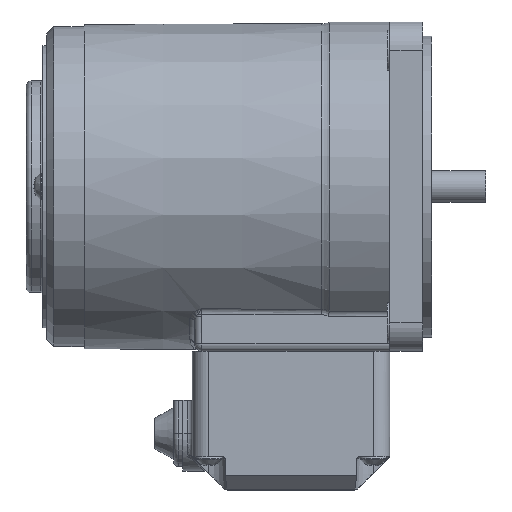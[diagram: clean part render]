
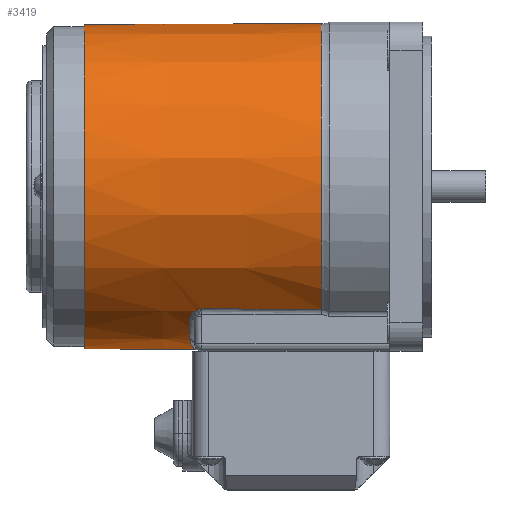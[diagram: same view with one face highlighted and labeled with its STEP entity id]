
A CAD part, top view. The second image highlights one B-rep face of the part: STEP entity #3419.
In plain terms, the highlighted conical face has half-angle 0.227 degrees and reference radius 34.6 mm.
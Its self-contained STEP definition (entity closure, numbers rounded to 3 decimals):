
#2389=CARTESIAN_POINT('',(8.0,34.5,0.0));
#2390=VERTEX_POINT('',#2389);
#2391=CARTESIAN_POINT('',(8.,0.,0.0));
#2392=DIRECTION('',(1.0,0.0,0.0));
#2393=DIRECTION('',(0.0,1.0,0.0));
#2394=AXIS2_PLACEMENT_3D('',#2391,#2392,#2393);
#2395=CIRCLE('',#2394,34.5);
#2396=EDGE_CURVE('',#2390,#2390,#2395,.T.);
#2527=CARTESIAN_POINT('',(58.46,-26.146,-22.814));
#2528=VERTEX_POINT('',#2527);
#2588=CARTESIAN_POINT('',(32.994,-26.014,-22.811));
#2589=VERTEX_POINT('',#2588);
#2597=CARTESIAN_POINT('',(32.994,-26.014,-22.811));
#2598=CARTESIAN_POINT('',(41.483,-26.058,-22.812));
#2599=CARTESIAN_POINT('',(49.971,-26.102,-22.813));
#2600=CARTESIAN_POINT('',(58.46,-26.146,-22.814));
#2601=B_SPLINE_CURVE_WITH_KNOTS('',3,(#2597,#2598,#2599,#2600),.UNSPECIFIED.,.F.,.U.,(4,4),(-4.151,-1.604),.UNSPECIFIED.);
#2602=EDGE_CURVE('',#2589,#2528,#2601,.T.);
#2709=CARTESIAN_POINT('',(58.46,-26.146,22.814));
#2710=VERTEX_POINT('',#2709);
#2720=CARTESIAN_POINT('',(58.46,0.,0.0));
#2721=DIRECTION('',(1.0,0.0,0.0));
#2722=DIRECTION('',(0.0,1.0,0.0));
#2723=AXIS2_PLACEMENT_3D('',#2720,#2721,#2722);
#2724=CIRCLE('',#2723,34.7);
#2725=EDGE_CURVE('',#2528,#2710,#2724,.T.);
#2788=CARTESIAN_POINT('',(32.994,-26.014,22.811));
#2789=VERTEX_POINT('',#2788);
#2813=CARTESIAN_POINT('',(58.46,-26.146,22.814));
#2814=CARTESIAN_POINT('',(49.971,-26.102,22.813));
#2815=CARTESIAN_POINT('',(41.483,-26.058,22.812));
#2816=CARTESIAN_POINT('',(32.994,-26.014,22.811));
#2817=B_SPLINE_CURVE_WITH_KNOTS('',3,(#2813,#2814,#2815,#2816),.UNSPECIFIED.,.F.,.U.,(4,4),(-5.195,-2.649),.UNSPECIFIED.);
#2818=EDGE_CURVE('',#2710,#2789,#2817,.T.);
#3314=CARTESIAN_POINT('',(33.23,0.,0.0));
#3315=DIRECTION('',(1.0,0.,0.0));
#3316=DIRECTION('',(0.0,1.0,0.0));
#3317=AXIS2_PLACEMENT_3D('',#3314,#3315,#3316);
#3318=CONICAL_SURFACE('',#3317,34.6,0.227);
#3319=CARTESIAN_POINT('',(31.869,-26.38,-22.381));
#3320=VERTEX_POINT('',#3319);
#3321=CARTESIAN_POINT('',(31.869,-26.38,-22.381));
#3322=CARTESIAN_POINT('',(32.009,-26.321,-22.45));
#3323=CARTESIAN_POINT('',(32.229,-26.242,-22.544));
#3324=CARTESIAN_POINT('',(32.605,-26.124,-22.683));
#3325=CARTESIAN_POINT('',(32.836,-26.059,-22.759));
#3326=CARTESIAN_POINT('',(32.991,-26.015,-22.81));
#3327=CARTESIAN_POINT('',(32.993,-26.015,-22.811));
#3328=CARTESIAN_POINT('',(32.994,-26.014,-22.811));
#3329=B_SPLINE_CURVE_WITH_KNOTS('',3,(#3321,#3322,#3323,#3324,#3325,#3326,#3327,#3328),.UNSPECIFIED.,.F.,.U.,(4,1,1,2,4),(-0.126,-0.076,-0.051,0.0,0.),.UNSPECIFIED.);
#3330=EDGE_CURVE('',#3320,#2589,#3329,.T.);
#3331=ORIENTED_EDGE('',*,*,#3330,.F.);
#3332=CARTESIAN_POINT('',(31.101,-26.865,-21.791));
#3333=VERTEX_POINT('',#3332);
#3334=CARTESIAN_POINT('',(31.101,-26.865,-21.791));
#3335=CARTESIAN_POINT('',(31.303,-26.678,-22.022));
#3336=CARTESIAN_POINT('',(31.564,-26.506,-22.23));
#3337=CARTESIAN_POINT('',(31.869,-26.38,-22.381));
#3338=B_SPLINE_CURVE_WITH_KNOTS('',3,(#3334,#3335,#3336,#3337),.UNSPECIFIED.,.F.,.U.,(4,4),(-0.11,0.),.UNSPECIFIED.);
#3339=EDGE_CURVE('',#3333,#3320,#3338,.T.);
#3340=ORIENTED_EDGE('',*,*,#3339,.F.);
#3341=CARTESIAN_POINT('',(30.504,-28.067,-20.216));
#3342=VERTEX_POINT('',#3341);
#3343=CARTESIAN_POINT('',(30.504,-28.067,-20.216));
#3344=CARTESIAN_POINT('',(30.504,-27.66,-20.78));
#3345=CARTESIAN_POINT('',(30.705,-27.229,-21.34));
#3346=CARTESIAN_POINT('',(31.101,-26.865,-21.791));
#3347=B_SPLINE_CURVE_WITH_KNOTS('',3,(#3343,#3344,#3345,#3346),.UNSPECIFIED.,.F.,.U.,(4,4),(-0.215,0.),.UNSPECIFIED.);
#3348=EDGE_CURVE('',#3342,#3333,#3347,.T.);
#3349=ORIENTED_EDGE('',*,*,#3348,.F.);
#3350=CARTESIAN_POINT('',(30.504,-32.559,-11.676));
#3351=VERTEX_POINT('',#3350);
#3352=CARTESIAN_POINT('',(30.504,0.,0.));
#3353=DIRECTION('',(1.,0.,0.));
#3354=DIRECTION('',(0.,-0.901,-0.434));
#3355=AXIS2_PLACEMENT_3D('',#3352,#3353,#3354);
#3356=CIRCLE('',#3355,34.589);
#3357=EDGE_CURVE('',#3351,#3342,#3356,.T.);
#3358=ORIENTED_EDGE('',*,*,#3357,.F.);
#3359=CARTESIAN_POINT('',(30.504,-32.559,11.676));
#3360=VERTEX_POINT('',#3359);
#3361=CARTESIAN_POINT('',(30.504,-32.559,11.676));
#3362=CARTESIAN_POINT('',(30.504,-32.943,10.605));
#3363=CARTESIAN_POINT('',(30.687,-33.606,8.422));
#3364=CARTESIAN_POINT('',(31.172,-34.269,5.101));
#3365=CARTESIAN_POINT('',(31.656,-34.607,1.72));
#3366=CARTESIAN_POINT('',(31.643,-34.607,-2.848));
#3367=CARTESIAN_POINT('',(30.751,-33.937,-7.329));
#3368=CARTESIAN_POINT('',(30.504,-32.943,-10.605));
#3369=CARTESIAN_POINT('',(30.504,-32.559,-11.676));
#3370=B_SPLINE_CURVE_WITH_KNOTS('',3,(#3361,#3362,#3363,#3364,#3365,#3366,#3367,#3368,#3369),.UNSPECIFIED.,.F.,.U.,(4,1,1,1,1,1,4),(-2.459,-2.108,-1.757,-1.405,-1.054,-0.351,0.0),.UNSPECIFIED.);
#3371=EDGE_CURVE('',#3360,#3351,#3370,.T.);
#3372=ORIENTED_EDGE('',*,*,#3371,.F.);
#3373=CARTESIAN_POINT('',(30.504,-28.067,20.216));
#3374=VERTEX_POINT('',#3373);
#3375=CARTESIAN_POINT('',(30.504,0.,0.));
#3376=DIRECTION('',(1.0,0.,0.));
#3377=DIRECTION('',(0.,-0.901,0.434));
#3378=AXIS2_PLACEMENT_3D('',#3375,#3376,#3377);
#3379=CIRCLE('',#3378,34.589);
#3380=EDGE_CURVE('',#3374,#3360,#3379,.T.);
#3381=ORIENTED_EDGE('',*,*,#3380,.F.);
#3382=CARTESIAN_POINT('',(31.101,-26.865,21.791));
#3383=VERTEX_POINT('',#3382);
#3384=CARTESIAN_POINT('',(31.101,-26.865,21.791));
#3385=CARTESIAN_POINT('',(30.705,-27.229,21.34));
#3386=CARTESIAN_POINT('',(30.504,-27.66,20.78));
#3387=CARTESIAN_POINT('',(30.504,-28.067,20.216));
#3388=B_SPLINE_CURVE_WITH_KNOTS('',3,(#3384,#3385,#3386,#3387),.UNSPECIFIED.,.F.,.U.,(4,4),(-0.215,0.),.UNSPECIFIED.);
#3389=EDGE_CURVE('',#3383,#3374,#3388,.T.);
#3390=ORIENTED_EDGE('',*,*,#3389,.F.);
#3391=CARTESIAN_POINT('',(31.869,-26.38,22.381));
#3392=VERTEX_POINT('',#3391);
#3393=CARTESIAN_POINT('',(31.869,-26.38,22.381));
#3394=CARTESIAN_POINT('',(31.564,-26.506,22.23));
#3395=CARTESIAN_POINT('',(31.303,-26.678,22.022));
#3396=CARTESIAN_POINT('',(31.101,-26.865,21.791));
#3397=B_SPLINE_CURVE_WITH_KNOTS('',3,(#3393,#3394,#3395,#3396),.UNSPECIFIED.,.F.,.U.,(4,4),(0.0,0.11),.UNSPECIFIED.);
#3398=EDGE_CURVE('',#3392,#3383,#3397,.T.);
#3399=ORIENTED_EDGE('',*,*,#3398,.F.);
#3400=CARTESIAN_POINT('',(32.994,-26.014,22.811));
#3401=CARTESIAN_POINT('',(32.993,-26.015,22.811));
#3402=CARTESIAN_POINT('',(32.991,-26.015,22.81));
#3403=CARTESIAN_POINT('',(32.836,-26.059,22.759));
#3404=CARTESIAN_POINT('',(32.605,-26.124,22.683));
#3405=CARTESIAN_POINT('',(32.229,-26.242,22.544));
#3406=CARTESIAN_POINT('',(32.009,-26.321,22.45));
#3407=CARTESIAN_POINT('',(31.869,-26.38,22.381));
#3408=B_SPLINE_CURVE_WITH_KNOTS('',3,(#3400,#3401,#3402,#3403,#3404,#3405,#3406,#3407),.UNSPECIFIED.,.F.,.U.,(4,2,1,1,4),(-0.127,-0.126,-0.076,-0.051,0.),.UNSPECIFIED.);
#3409=EDGE_CURVE('',#2789,#3392,#3408,.T.);
#3410=ORIENTED_EDGE('',*,*,#3409,.F.);
#3411=ORIENTED_EDGE('',*,*,#2818,.F.);
#3412=ORIENTED_EDGE('',*,*,#2725,.F.);
#3413=ORIENTED_EDGE('',*,*,#2602,.F.);
#3414=EDGE_LOOP('',(#3331,#3340,#3349,#3358,#3372,#3381,#3390,#3399,#3410,#3411,#3412,#3413));
#3415=FACE_OUTER_BOUND('',#3414,.T.);
#3416=ORIENTED_EDGE('',*,*,#2396,.T.);
#3417=EDGE_LOOP('',(#3416));
#3418=FACE_BOUND('',#3417,.T.);
#3419=ADVANCED_FACE('',(#3415,#3418),#3318,.T.);
